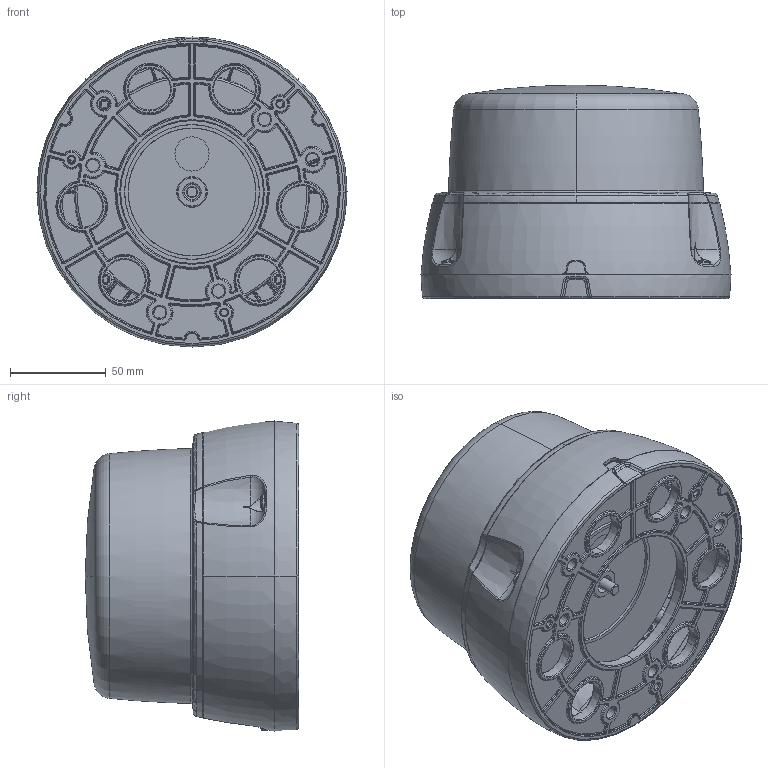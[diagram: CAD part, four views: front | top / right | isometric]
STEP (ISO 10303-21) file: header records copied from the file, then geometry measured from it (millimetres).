
FILE_DESCRIPTION (( 'LM_BRILAR_Serie_3P' ), '1' );
FILE_NAME ('LM_BRILAR_Serie_3P.STEP', '2015-07-30T07:06:25', ( 'Marcin' ), ( '' ), 'SwSTEP 2.0', 'SolidWorks 2013', '' );
FILE_SCHEMA (( 'AUTOMOTIVE_DESIGN' ));
Length unit declared in the file: millimetre
Products named in the file (5): LM_BRILAR_3P_4; LM_BRILAR_3P_3; LM_BRILAR_3P_5; W112+Podkladka montazowa_Uproszczona
Assembly tree (6 placements, depth 2):
  W112+Podkladka montazowa_Uproszczona
    LM_BRILAR_3P_5
    LM_BRILAR_3P_3
    LM_BRILAR_3P_3  x3
    LM_BRILAR_3P_4
Bounding box: 161.6 x 111.23 x 161.6 mm (x, y, z)
Volume: 1252497.6 mm3; surface area: 194574 mm2
Topology: 6 solids, 6 shells, 3050 faces, 7345 edges, 4095 vertices
Faces by surface type: torus 836, bspline 822, cone 455, plane 421, sphere 266, cylinder 250
Entity records: 105711 total; most frequent: CARTESIAN_POINT 42251, ORIENTED_EDGE 13826, DIRECTION 13140, EDGE_CURVE 6913, AXIS2_PLACEMENT_3D 6046, VERTEX_POINT 3993, CIRCLE 3873, EDGE_LOOP 3082
